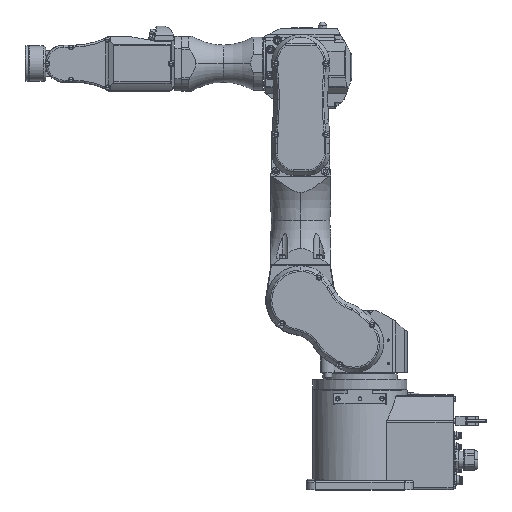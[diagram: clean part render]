
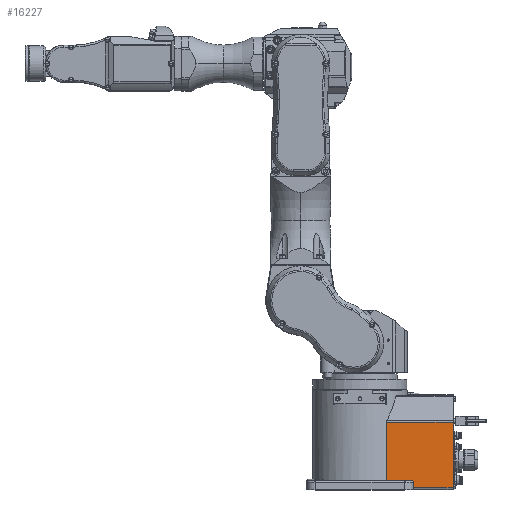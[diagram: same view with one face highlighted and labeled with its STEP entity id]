
A CAD part, top view. The second image highlights one B-rep face of the part: STEP entity #16227.
In plain terms, the highlighted planar face has unit normal (0, 0, 1).
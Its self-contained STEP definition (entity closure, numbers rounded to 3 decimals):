
#13773 = EDGE_CURVE( '', #29455, #28029, #40681, .T. );
#15091 = VERTEX_POINT( '', #42130 );
#16227 = ADVANCED_FACE( '', ( #43377 ), #43378, .T. );
#17651 = VERTEX_POINT( '', #44961 );
#17955 = EDGE_CURVE( '', #15091, #19159, #45289, .T. );
#19159 = VERTEX_POINT( '', #46647 );
#19285 = EDGE_CURVE( '', #31527, #36537, #46786, .T. );
#19707 = EDGE_CURVE( '', #19159, #17651, #47257, .T. );
#20413 = VERTEX_POINT( '', #48035 );
#22171 = EDGE_CURVE( '', #38453, #31527, #49979, .T. );
#25089 = EDGE_CURVE( '', #28029, #17651, #53246, .T. );
#28029 = VERTEX_POINT( '', #56504 );
#29455 = VERTEX_POINT( '', #58067 );
#31527 = VERTEX_POINT( '', #60382 );
#35317 = EDGE_CURVE( '', #15091, #38453, #64568, .T. );
#35701 = EDGE_CURVE( '', #36537, #20413, #64995, .T. );
#36537 = VERTEX_POINT( '', #65926 );
#37009 = EDGE_CURVE( '', #20413, #29455, #66446, .T. );
#38453 = VERTEX_POINT( '', #68045 );
#40681 = LINE( '', #70664, #70665 );
#42130 = CARTESIAN_POINT( '', ( 90., 3.5, 66. ) );
#43377 = FACE_OUTER_BOUND( '', #74979, .T. );
#43378 = PLANE( '', #74980 );
#44961 = CARTESIAN_POINT( '', ( 157.5, 114.378, 66. ) );
#45289 = LINE( '', #77960, #77961 );
#46647 = CARTESIAN_POINT( '', ( 157.5, 3.5, 66. ) );
#46786 = LINE( '', #80518, #80519 );
#47257 = LINE( '', #81303, #81304 );
#48035 = CARTESIAN_POINT( '', ( 68.675, 16.272, 66. ) );
#49979 = ELLIPSE( '', #85330, 3.501, 3.5 );
#53246 = LINE( '', #90461, #90462 );
#56504 = CARTESIAN_POINT( '', ( 45.211, 114.378, 66. ) );
#58067 = CARTESIAN_POINT( '', ( 45.211, 16.272, 66. ) );
#60382 = CARTESIAN_POINT( '', ( 89.199, 15., 66. ) );
#64568 = LINE( '', #107771, #107772 );
#64995 = LINE( '', #108391, #108392 );
#65926 = CARTESIAN_POINT( '', ( 68.675, 15., 66. ) );
#66446 = LINE( '', #110644, #110645 );
#68045 = CARTESIAN_POINT( '', ( 90., 12.771, 66. ) );
#70664 = CARTESIAN_POINT( '', ( 45.211, 65.141, 66. ) );
#70665 = VECTOR( '', #116592, 1. );
#74979 = EDGE_LOOP( '', ( #119670, #119671, #119672, #119673, #119674, #119675, #119676, #119677, #119678 ) );
#74980 = AXIS2_PLACEMENT_3D( '', #119679, #119680, #119681 );
#77960 = CARTESIAN_POINT( '', ( 0., 3.5, 66. ) );
#77961 = VECTOR( '', #121939, 1. );
#80518 = CARTESIAN_POINT( '', ( 0., 15., 66. ) );
#80519 = VECTOR( '', #123697, 1. );
#81303 = CARTESIAN_POINT( '', ( 157.5, 114.378, 66. ) );
#81304 = VECTOR( '', #124242, 1. );
#85330 = AXIS2_PLACEMENT_3D( '', #127341, #127342, #127343 );
#90461 = CARTESIAN_POINT( '', ( 0., 114.378, 66. ) );
#90462 = VECTOR( '', #131419, 1. );
#107771 = CARTESIAN_POINT( '', ( 90., 1.75, 66. ) );
#107772 = VECTOR( '', #144609, 1. );
#108391 = CARTESIAN_POINT( '', ( 68.675, 15.662, 66. ) );
#108392 = VECTOR( '', #145109, 1. );
#110644 = CARTESIAN_POINT( '', ( 45., 16.272, 66. ) );
#110645 = VECTOR( '', #146847, 1. );
#116592 = DIRECTION( '', ( 0., 1., 0. ) );
#119670 = ORIENTED_EDGE( '', *, *, #13773, .F. );
#119671 = ORIENTED_EDGE( '', *, *, #37009, .F. );
#119672 = ORIENTED_EDGE( '', *, *, #35701, .F. );
#119673 = ORIENTED_EDGE( '', *, *, #19285, .F. );
#119674 = ORIENTED_EDGE( '', *, *, #22171, .F. );
#119675 = ORIENTED_EDGE( '', *, *, #35317, .F. );
#119676 = ORIENTED_EDGE( '', *, *, #17955, .T. );
#119677 = ORIENTED_EDGE( '', *, *, #19707, .T. );
#119678 = ORIENTED_EDGE( '', *, *, #25089, .F. );
#119679 = CARTESIAN_POINT( '', ( 0., 3.5, 66. ) );
#119680 = DIRECTION( '', ( 0., 0., 1. ) );
#119681 = DIRECTION( '', ( 0., -1., 0. ) );
#121939 = DIRECTION( '', ( 1., 0., 0. ) );
#123697 = DIRECTION( '', ( -1., 0., 0. ) );
#124242 = DIRECTION( '', ( 0., 1., 0. ) );
#127341 = CARTESIAN_POINT( '', ( 86.5, 12.771, 66. ) );
#127342 = DIRECTION( '', ( 0., 0., 1. ) );
#127343 = DIRECTION( '', ( 0., 1., 0. ) );
#131419 = DIRECTION( '', ( 1., 0., 0. ) );
#144609 = DIRECTION( '', ( 0., 1., 0. ) );
#145109 = DIRECTION( '', ( 0., 1., 0. ) );
#146847 = DIRECTION( '', ( -1., 0., 0. ) );
